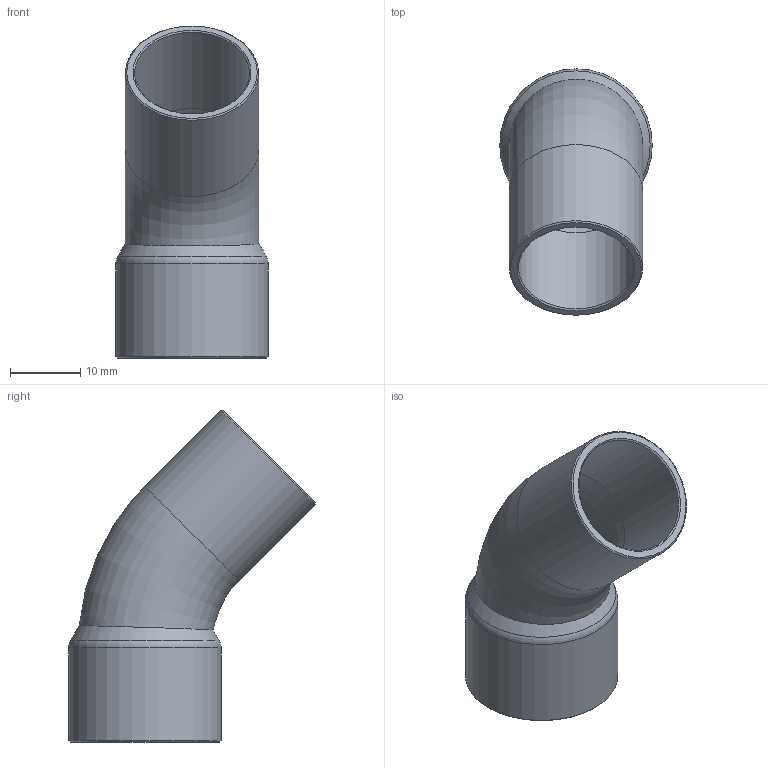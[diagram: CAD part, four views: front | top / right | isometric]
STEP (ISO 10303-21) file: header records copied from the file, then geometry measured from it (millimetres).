
FILE_DESCRIPTION((''),'2;1');
FILE_NAME('G:\SANHA-Ternat\Technik\Management\Bouwmaten + markeringen\z-maattekeningen 3D\29000s\2904034_3d.stp','2017-07-26T14:07:55',('vdvijverd'),(''),'Autodesk Inventor 2009','Autodesk Inventor 2009','');
FILE_SCHEMA(('AUTOMOTIVE_DESIGN { 1 0 10303 214 1 1 1 1 }'));
Length unit declared in the file: millimetre
Products named in the file (1): 2904034_3d
Bounding box: 21.77 x 35.22 x 47.42 mm (x, y, z)
Volume: 3608.8 mm3; surface area: 5687 mm2
Topology: 1 solids, 1 shells, 16 faces, 33 edges, 19 vertices
Faces by surface type: cone 6, cylinder 4, torus 3, plane 2, bspline 1
Full cylindrical faces by diameter (mm): 16.45 x1, 19.05 x1, 19.17 x1, 21.77 x1
Entity records: 464 total; most frequent: CARTESIAN_POINT 169, DIRECTION 60, ORIENTED_EDGE 32, EDGE_LOOP 32, AXIS2_PLACEMENT_3D 30, VERTEX_POINT 16, EDGE_CURVE 16, FACE_OUTER_BOUND 16
